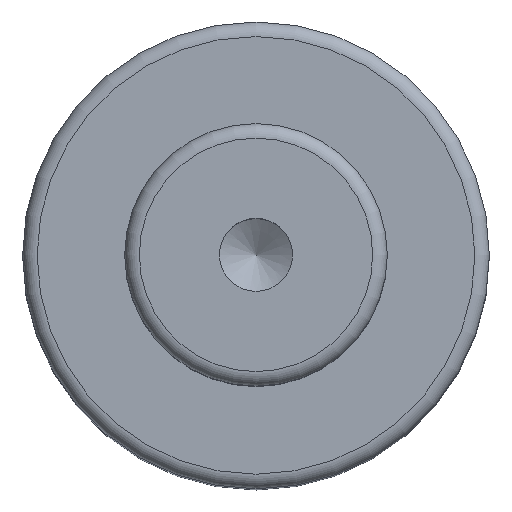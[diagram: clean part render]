
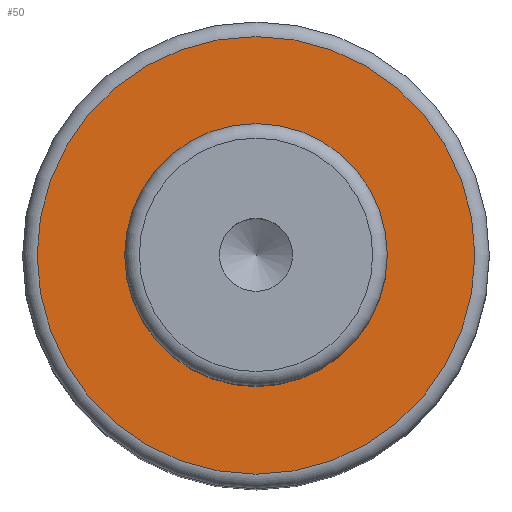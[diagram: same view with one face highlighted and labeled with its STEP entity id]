
A CAD part, top view. The second image highlights one B-rep face of the part: STEP entity #50.
In plain terms, the highlighted planar face has unit normal (0, 0, 1).
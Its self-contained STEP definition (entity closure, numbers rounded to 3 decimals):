
#40=PLANE('',#179);
#50=ADVANCED_FACE('',(#72,#73),#40,.F.);
#72=FACE_BOUND('',#96,.T.);
#73=FACE_BOUND('',#97,.T.);
#96=EDGE_LOOP('',(#118));
#97=EDGE_LOOP('',(#119));
#118=ORIENTED_EDGE('',*,*,#149,.F.);
#119=ORIENTED_EDGE('',*,*,#148,.T.);
#135=VERTEX_POINT('',#256);
#136=VERTEX_POINT('',#259);
#148=EDGE_CURVE('',#135,#135,#159,.T.);
#149=EDGE_CURVE('',#136,#136,#160,.T.);
#159=CIRCLE('',#176,9.);
#160=CIRCLE('',#178,15.);
#176=AXIS2_PLACEMENT_3D('',#255,#213,#214);
#178=AXIS2_PLACEMENT_3D('',#258,#217,#218);
#179=AXIS2_PLACEMENT_3D('',#260,#219,#220);
#213=DIRECTION('',(0.,0.,-1.));
#214=DIRECTION('',(-1.,0.,0.));
#217=DIRECTION('',(0.,0.,-1.));
#218=DIRECTION('',(-1.,0.,0.));
#219=DIRECTION('',(0.,0.,-1.));
#220=DIRECTION('',(-1.,0.,0.));
#255=CARTESIAN_POINT('',(0.,0.,49.));
#256=CARTESIAN_POINT('',(-9.,0.,49.));
#258=CARTESIAN_POINT('',(0.,0.,49.));
#259=CARTESIAN_POINT('',(-15.,0.,49.));
#260=CARTESIAN_POINT('',(9.,0.,49.));
